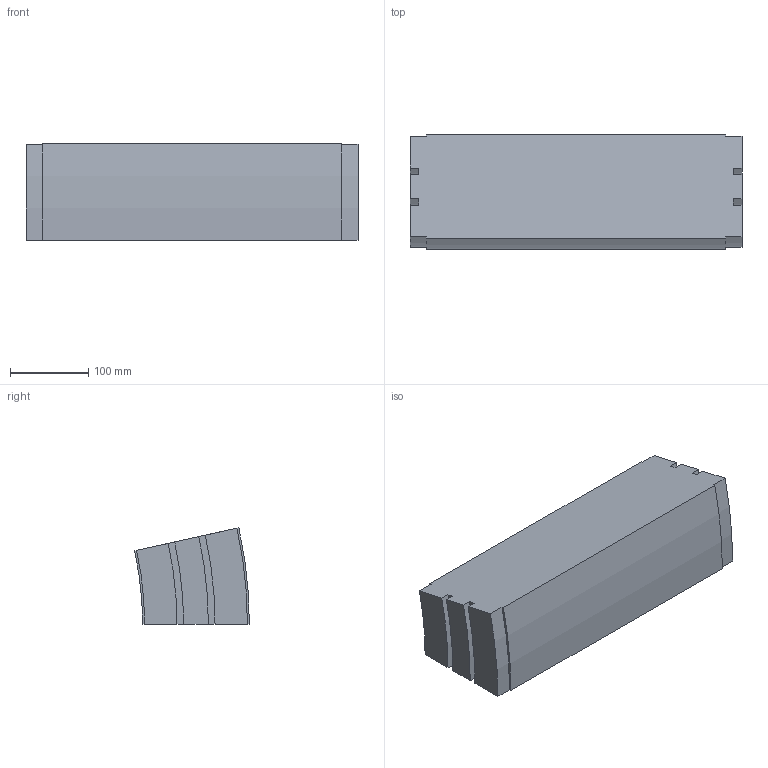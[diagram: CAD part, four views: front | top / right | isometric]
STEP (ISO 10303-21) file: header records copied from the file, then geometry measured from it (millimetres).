
FILE_DESCRIPTION (( 'STEP AP214' ), '1' );
FILE_NAME ('02.150V12.420.N FS-350-MTC-150 Bocht verticaal 12,5°.STEP', '2013-03-29T12:29:50', ( 'Gebruiker' ), ( '' ), 'SwSTEP 2.0', 'SolidWorks 2012', '' );
FILE_SCHEMA (( 'AUTOMOTIVE_DESIGN' ));
Length unit declared in the file: millimetre
Products named in the file (1): 02.150V12.420.N FS-350-MTC-150 Bocht verticaal 12,5°
Bounding box: 423 x 146.24 x 122.94 mm (x, y, z)
Volume: 6211626.8 mm3; surface area: 245442.2 mm2
Topology: 1 solids, 1 shells, 30 faces, 84 edges, 56 vertices
Faces by surface type: plane 16, cylinder 14
Entity records: 1010 total; most frequent: DIRECTION 174, CARTESIAN_POINT 171, ORIENTED_EDGE 168, EDGE_CURVE 84, AXIS2_PLACEMENT_3D 59, VERTEX_POINT 56, LINE 56, VECTOR 56
